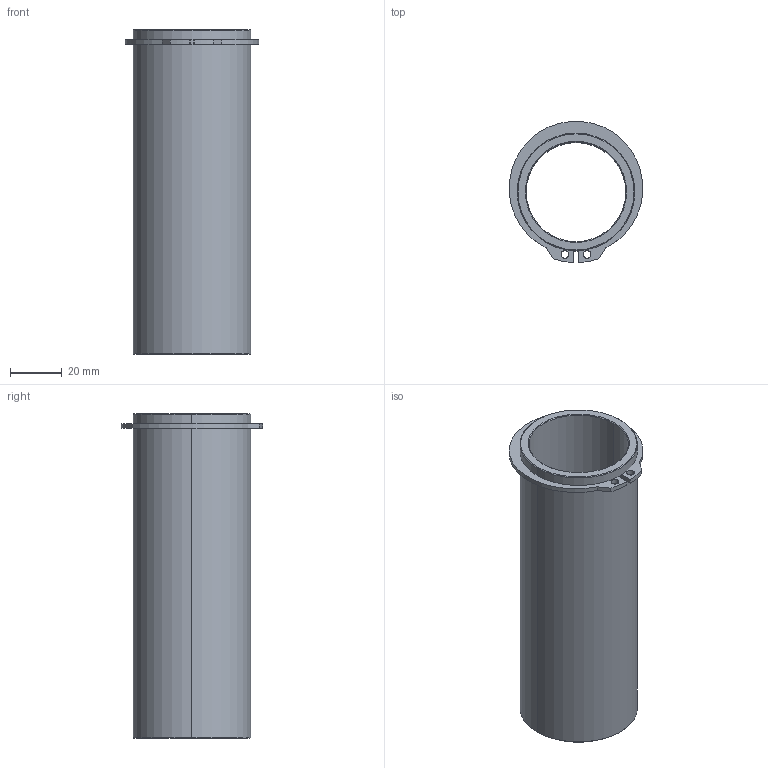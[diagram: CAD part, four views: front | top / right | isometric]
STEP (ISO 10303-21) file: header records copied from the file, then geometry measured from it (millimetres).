
FILE_DESCRIPTION((''),'2;1');
FILE_NAME('C13_038_125.stp','2008-12-17T15:26:53',(''),(''),'Mechanical Desktop 2009','Mechanical Desktop 2009',', , ');
FILE_SCHEMA(('CONFIG_CONTROL_DESIGN'));
Length unit declared in the file: millimetre
Products named in the file (2): Product; blmdl1
Assembly tree (1 placements, depth 2):
  Product
    blmdl1
Bounding box: 51.33 x 54.26 x 125 mm (x, y, z)
Volume: 57481.1 mm3; surface area: 35742.6 mm2
Topology: 2 solids, 2 shells, 34 faces, 76 edges, 48 vertices
Faces by surface type: cylinder 16, plane 10, cone 8
Entity records: 1075 total; most frequent: DIRECTION 188, CARTESIAN_POINT 160, ORIENTED_EDGE 152, AXIS2_PLACEMENT_3D 76, EDGE_CURVE 76, VERTEX_POINT 48, EDGE_LOOP 42, CIRCLE 40
